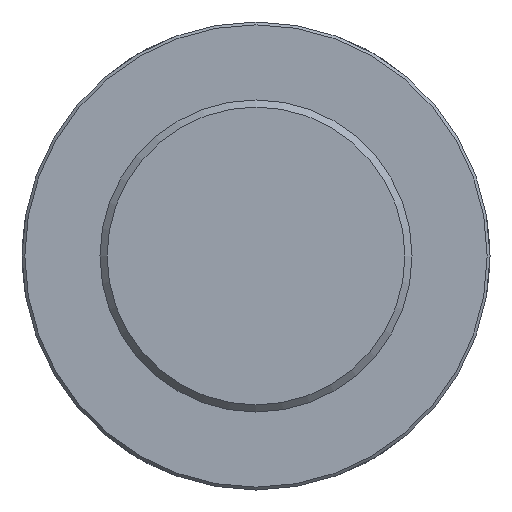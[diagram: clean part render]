
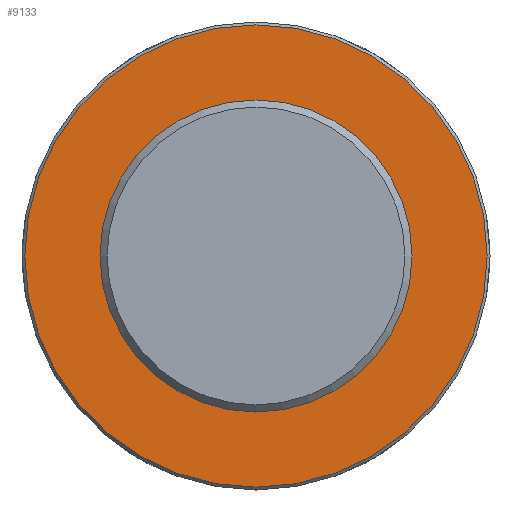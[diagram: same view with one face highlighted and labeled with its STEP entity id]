
A CAD part, front view. The second image highlights one B-rep face of the part: STEP entity #9133.
In plain terms, the highlighted planar face has unit normal (0, -1, 0) as drawn and (0, 1, 0) by its records, which use the part's own axes.
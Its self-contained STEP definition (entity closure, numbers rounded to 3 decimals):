
#73=CIRCLE('',#9499,163.);
#1278=FACE_OUTER_BOUND('',#1829,.T.);
#1829=EDGE_LOOP('',(#8359));
#4425=VERTEX_POINT('',#16457);
#5741=EDGE_CURVE('',#4425,#4425,#73,.T.);
#8359=ORIENTED_EDGE('',*,*,#5741,.F.);
#8650=PLANE('',#9502);
#9133=ADVANCED_FACE('',(#1278),#8650,.T.);
#9499=AXIS2_PLACEMENT_3D('',#16458,#10945,#10946);
#9502=AXIS2_PLACEMENT_3D('',#16696,#10951,#10952);
#10945=DIRECTION('center_axis',(0.,-1.,0.));
#10946=DIRECTION('ref_axis',(1.,0.,0.));
#10951=DIRECTION('center_axis',(0.,1.,0.));
#10952=DIRECTION('ref_axis',(0.,0.,1.));
#16457=CARTESIAN_POINT('',(-163.,155.,0.));
#16458=CARTESIAN_POINT('Origin',(0.,155.,0.));
#16696=CARTESIAN_POINT('Origin',(0.,155.,0.));
